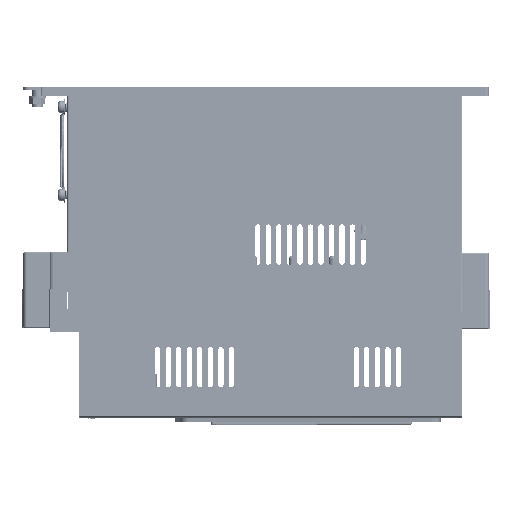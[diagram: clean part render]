
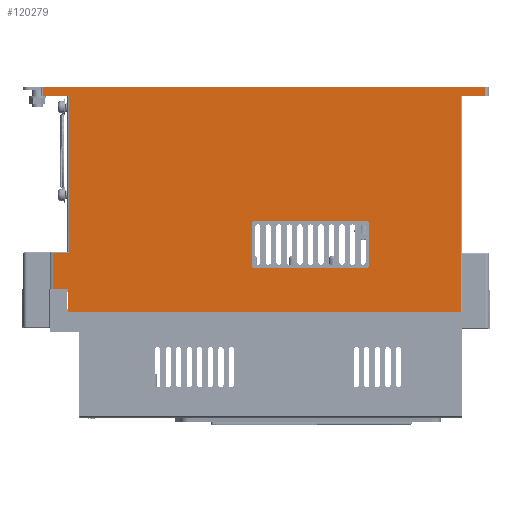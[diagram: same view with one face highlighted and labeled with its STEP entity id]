
A CAD part, front view. The second image highlights one B-rep face of the part: STEP entity #120279.
In plain terms, the highlighted planar face has unit normal (0, -1, 0).
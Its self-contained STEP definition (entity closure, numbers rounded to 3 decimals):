
#26723=DIRECTION('',(1.,0.,0.));
#26724=VECTOR('',#26723,15.);
#26725=CARTESIAN_POINT('',(-333.24,-4.,2.));
#26726=LINE('',#26725,#26724);
#41468=DIRECTION('',(1.,0.,0.));
#41469=VECTOR('',#41468,223.705);
#41470=CARTESIAN_POINT('',(-318.945,-4.,-121.));
#41471=LINE('',#41470,#41469);
#43007=DIRECTION('',(1.,0.,0.));
#43008=VECTOR('',#43007,8.183);
#43009=CARTESIAN_POINT('',(-327.24,-4.,-108.142));
#43010=LINE('',#43009,#43008);
#46725=DIRECTION('',(1.,0.,0.));
#46726=VECTOR('',#46725,14.);
#46727=CARTESIAN_POINT('',(-95.24,-4.,2.));
#46728=LINE('',#46727,#46726);
#50840=DIRECTION('',(1.,0.,0.));
#50841=VECTOR('',#50840,9.);
#50842=CARTESIAN_POINT('',(-327.24,-4.,-87.642));
#50843=LINE('',#50842,#50841);
#50847=DIRECTION('',(0.,0.,1.));
#50848=VECTOR('',#50847,5.3);
#50849=CARTESIAN_POINT('',(-333.24,-4.,2.));
#50850=LINE('',#50849,#50848);
#50854=DIRECTION('',(1.,0.,0.));
#50855=VECTOR('',#50854,252.);
#50856=CARTESIAN_POINT('',(-333.24,-4.,7.3));
#50857=LINE('',#50856,#50855);
#50861=DIRECTION('',(0.,0.,-1.));
#50862=VECTOR('',#50861,5.3);
#50863=CARTESIAN_POINT('',(-81.24,-4.,7.3));
#50864=LINE('',#50863,#50862);
#50868=DIRECTION('',(0.,0.,1.));
#50869=VECTOR('',#50868,123.);
#50870=CARTESIAN_POINT('',(-95.24,-4.,-121.));
#50871=LINE('',#50870,#50869);
#50875=DIRECTION('',(0.009,0.,-1.));
#50876=VECTOR('',#50875,12.859);
#50877=CARTESIAN_POINT('',(-319.057,-4.,-108.142));
#50878=LINE('',#50877,#50876);
#50882=DIRECTION('',(0.,0.,-1.));
#50883=VECTOR('',#50882,20.5);
#50884=CARTESIAN_POINT('',(-327.24,-4.,-87.642));
#50885=LINE('',#50884,#50883);
#50889=DIRECTION('',(0.,0.,1.));
#50890=VECTOR('',#50889,23.);
#50891=CARTESIAN_POINT('',(-147.24,-4.,-94.2));
#50892=LINE('',#50891,#50890);
#50896=DIRECTION('',(-1.,0.,0.));
#50897=VECTOR('',#50896,63.);
#50898=CARTESIAN_POINT('',(-149.24,-4.,-69.2));
#50899=LINE('',#50898,#50897);
#50903=DIRECTION('',(0.,0.,-1.));
#50904=VECTOR('',#50903,23.);
#50905=CARTESIAN_POINT('',(-214.24,-4.,-71.2));
#50906=LINE('',#50905,#50904);
#50910=DIRECTION('',(1.,0.,0.));
#50911=VECTOR('',#50910,63.);
#50912=CARTESIAN_POINT('',(-212.24,-4.,-96.2));
#50913=LINE('',#50912,#50911);
#51306=DIRECTION('',(0.,0.,-1.));
#51307=VECTOR('',#51306,89.642);
#51308=CARTESIAN_POINT('',(-318.24,-4.,2.));
#51309=LINE('',#51308,#51307);
#51407=CARTESIAN_POINT('',(-149.24,-4.,-94.2));
#51408=DIRECTION('',(0.,1.,0.));
#51409=DIRECTION('',(1.,0.,0.));
#51410=AXIS2_PLACEMENT_3D('',#51407,#51408,#51409);
#53815=CARTESIAN_POINT('',(-212.24,-4.,-94.2));
#53816=DIRECTION('',(0.,1.,0.));
#53817=DIRECTION('',(0.,0.,-1.));
#53818=AXIS2_PLACEMENT_3D('',#53815,#53816,#53817);
#53837=CARTESIAN_POINT('',(-212.24,-4.,-71.2));
#53838=DIRECTION('',(0.,1.,0.));
#53839=DIRECTION('',(-1.,0.,0.));
#53840=AXIS2_PLACEMENT_3D('',#53837,#53838,#53839);
#53859=CARTESIAN_POINT('',(-149.24,-4.,-71.2));
#53860=DIRECTION('',(0.,1.,0.));
#53861=DIRECTION('',(0.,0.,1.));
#53862=AXIS2_PLACEMENT_3D('',#53859,#53860,#53861);
#71546=CARTESIAN_POINT('',(-333.24,-4.,2.));
#71548=VERTEX_POINT('',#71546);
#71590=CARTESIAN_POINT('',(-327.24,-4.,-108.142));
#71592=VERTEX_POINT('',#71590);
#71614=CARTESIAN_POINT('',(-319.057,-4.,-108.142));
#71615=VERTEX_POINT('',#71614);
#71618=CARTESIAN_POINT('',(-318.945,-4.,-121.));
#71619=VERTEX_POINT('',#71618);
#71647=CARTESIAN_POINT('',(-81.24,-4.,2.));
#71649=VERTEX_POINT('',#71647);
#75385=CARTESIAN_POINT('',(-333.24,-4.,7.3));
#75387=VERTEX_POINT('',#75385);
#75428=CARTESIAN_POINT('',(-81.24,-4.,7.3));
#75429=VERTEX_POINT('',#75428);
#82630=CARTESIAN_POINT('',(-95.24,-4.,-121.));
#82631=VERTEX_POINT('',#82630);
#82632=CARTESIAN_POINT('',(-95.24,-4.,2.));
#82633=VERTEX_POINT('',#82632);
#82642=CARTESIAN_POINT('',(-318.24,-4.,2.));
#82643=VERTEX_POINT('',#82642);
#83340=CARTESIAN_POINT('',(-327.24,-4.,-87.642));
#83341=CARTESIAN_POINT('',(-318.24,-4.,-87.642));
#83342=VERTEX_POINT('',#83340);
#83343=VERTEX_POINT('',#83341);
#83570=CARTESIAN_POINT('',(-147.24,-4.,-94.2));
#83571=VERTEX_POINT('',#83570);
#83572=CARTESIAN_POINT('',(-149.24,-4.,-96.2));
#83573=VERTEX_POINT('',#83572);
#83578=CARTESIAN_POINT('',(-149.24,-4.,-69.2));
#83579=VERTEX_POINT('',#83578);
#83580=CARTESIAN_POINT('',(-147.24,-4.,-71.2));
#83581=VERTEX_POINT('',#83580);
#83586=CARTESIAN_POINT('',(-212.24,-4.,-96.2));
#83587=VERTEX_POINT('',#83586);
#83588=CARTESIAN_POINT('',(-214.24,-4.,-94.2));
#83589=VERTEX_POINT('',#83588);
#83594=CARTESIAN_POINT('',(-214.24,-4.,-71.2));
#83595=VERTEX_POINT('',#83594);
#83596=CARTESIAN_POINT('',(-212.24,-4.,-69.2));
#83597=VERTEX_POINT('',#83596);
#120237=CARTESIAN_POINT('',(-68.24,-4.,-66.));
#120238=DIRECTION('',(0.,-1.,0.));
#120239=DIRECTION('',(-1.,0.,0.));
#120240=AXIS2_PLACEMENT_3D('',#120237,#120238,#120239);
#120241=PLANE('',#120240);
#120243=ORIENTED_EDGE('',*,*,#120242,.T.);
#120245=ORIENTED_EDGE('',*,*,#120244,.F.);
#120246=ORIENTED_EDGE('',*,*,#99447,.F.);
#120247=ORIENTED_EDGE('',*,*,#120230,.T.);
#120248=ORIENTED_EDGE('',*,*,#119846,.T.);
#120250=ORIENTED_EDGE('',*,*,#120249,.T.);
#120251=ORIENTED_EDGE('',*,*,#116050,.F.);
#120253=ORIENTED_EDGE('',*,*,#120252,.F.);
#120254=ORIENTED_EDGE('',*,*,#112577,.F.);
#120255=ORIENTED_EDGE('',*,*,#114688,.F.);
#120256=ORIENTED_EDGE('',*,*,#113788,.F.);
#120258=ORIENTED_EDGE('',*,*,#120257,.F.);
#120259=EDGE_LOOP('',(#120243,#120245,#120246,#120247,#120248,#120250,#120251,
#120253,#120254,#120255,#120256,#120258));
#120260=FACE_OUTER_BOUND('',#120259,.F.);
#120262=ORIENTED_EDGE('',*,*,#120261,.T.);
#120264=ORIENTED_EDGE('',*,*,#120263,.F.);
#120266=ORIENTED_EDGE('',*,*,#120265,.T.);
#120268=ORIENTED_EDGE('',*,*,#120267,.F.);
#120270=ORIENTED_EDGE('',*,*,#120269,.T.);
#120272=ORIENTED_EDGE('',*,*,#120271,.F.);
#120274=ORIENTED_EDGE('',*,*,#120273,.T.);
#120276=ORIENTED_EDGE('',*,*,#120275,.F.);
#120277=EDGE_LOOP('',(#120262,#120264,#120266,#120268,#120270,#120272,#120274,
#120276));
#120278=FACE_BOUND('',#120277,.F.);
#120279=ADVANCED_FACE('',(#120260,#120278),#120241,.T.);
#51411=CIRCLE('',#51410,2.);
#53819=CIRCLE('',#53818,2.);
#53841=CIRCLE('',#53840,2.);
#53863=CIRCLE('',#53862,2.);
#99447=EDGE_CURVE('',#71548,#82643,#26726,.T.);
#112577=EDGE_CURVE('',#71619,#82631,#41471,.T.);
#113788=EDGE_CURVE('',#71592,#71615,#43010,.T.);
#114688=EDGE_CURVE('',#71615,#71619,#50878,.T.);
#116050=EDGE_CURVE('',#82633,#71649,#46728,.T.);
#119846=EDGE_CURVE('',#75387,#75429,#50857,.T.);
#120230=EDGE_CURVE('',#71548,#75387,#50850,.T.);
#120242=EDGE_CURVE('',#83342,#83343,#50843,.T.);
#120244=EDGE_CURVE('',#82643,#83343,#51309,.T.);
#120249=EDGE_CURVE('',#75429,#71649,#50864,.T.);
#120252=EDGE_CURVE('',#82631,#82633,#50871,.T.);
#120257=EDGE_CURVE('',#83342,#71592,#50885,.T.);
#120261=EDGE_CURVE('',#83571,#83581,#50892,.T.);
#120263=EDGE_CURVE('',#83579,#83581,#53863,.T.);
#120265=EDGE_CURVE('',#83579,#83597,#50899,.T.);
#120267=EDGE_CURVE('',#83595,#83597,#53841,.T.);
#120269=EDGE_CURVE('',#83595,#83589,#50906,.T.);
#120271=EDGE_CURVE('',#83587,#83589,#53819,.T.);
#120273=EDGE_CURVE('',#83587,#83573,#50913,.T.);
#120275=EDGE_CURVE('',#83571,#83573,#51411,.T.);
